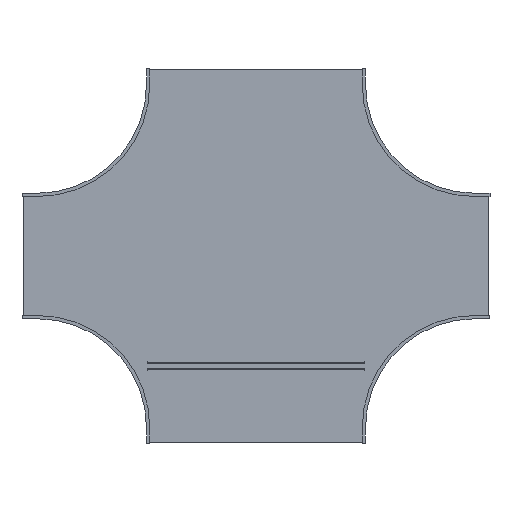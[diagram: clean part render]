
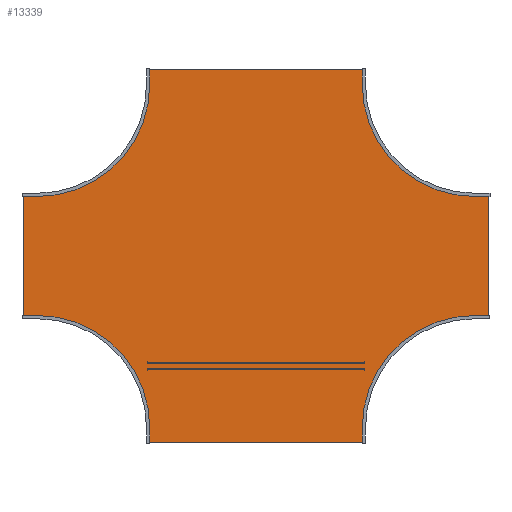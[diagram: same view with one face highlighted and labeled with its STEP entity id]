
A CAD part, front view. The second image highlights one B-rep face of the part: STEP entity #13339.
In plain terms, the highlighted planar face has unit normal (0, -1, 0).
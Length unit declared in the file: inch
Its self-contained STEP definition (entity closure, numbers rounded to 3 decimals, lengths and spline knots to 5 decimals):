
#13036=DIRECTION('',(0.,0.,1.));
#13037=VECTOR('',#13036,23.875);
#13038=CARTESIAN_POINT('',(-44.875,0.,-11.9375));
#13039=LINE('',#13038,#13037);
#13040=DIRECTION('',(1.,0.,0.));
#13041=VECTOR('',#13040,2.785);
#13042=CARTESIAN_POINT('',(-44.875,0.,11.9375));
#13043=LINE('',#13042,#13041);
#13044=CARTESIAN_POINT('',(-42.09,0.,33.09));
#13045=DIRECTION('',(0.,-1.,0.));
#13046=DIRECTION('',(0.,0.,-1.));
#13047=AXIS2_PLACEMENT_3D('',#13044,#13045,#13046);
#13049=DIRECTION('',(0.,0.,1.));
#13050=VECTOR('',#13049,2.785);
#13051=CARTESIAN_POINT('',(-20.9375,0.,33.09));
#13052=LINE('',#13051,#13050);
#13053=DIRECTION('',(1.,0.,0.));
#13054=VECTOR('',#13053,41.875);
#13055=CARTESIAN_POINT('',(-20.9375,0.,35.875));
#13056=LINE('',#13055,#13054);
#13057=DIRECTION('',(0.,0.,-1.));
#13058=VECTOR('',#13057,2.785);
#13059=CARTESIAN_POINT('',(20.9375,0.,35.875));
#13060=LINE('',#13059,#13058);
#13061=CARTESIAN_POINT('',(42.09,0.,33.09));
#13062=DIRECTION('',(0.,-1.,0.));
#13063=DIRECTION('',(-1.,0.,0.));
#13064=AXIS2_PLACEMENT_3D('',#13061,#13062,#13063);
#13066=DIRECTION('',(1.,0.,0.));
#13067=VECTOR('',#13066,2.785);
#13068=CARTESIAN_POINT('',(42.09,0.,11.9375));
#13069=LINE('',#13068,#13067);
#13070=DIRECTION('',(0.,0.,-1.));
#13071=VECTOR('',#13070,23.875);
#13072=CARTESIAN_POINT('',(44.875,0.,11.9375));
#13073=LINE('',#13072,#13071);
#13074=DIRECTION('',(-1.,0.,0.));
#13075=VECTOR('',#13074,2.785);
#13076=CARTESIAN_POINT('',(44.875,0.,-11.9375));
#13077=LINE('',#13076,#13075);
#13078=CARTESIAN_POINT('',(42.09,0.,-33.09));
#13079=DIRECTION('',(0.,-1.,0.));
#13080=DIRECTION('',(0.,0.,1.));
#13081=AXIS2_PLACEMENT_3D('',#13078,#13079,#13080);
#13083=DIRECTION('',(0.,0.,-1.));
#13084=VECTOR('',#13083,2.785);
#13085=CARTESIAN_POINT('',(20.9375,0.,-33.09));
#13086=LINE('',#13085,#13084);
#13087=DIRECTION('',(-1.,0.,0.));
#13088=VECTOR('',#13087,41.875);
#13089=CARTESIAN_POINT('',(20.9375,0.,-35.875));
#13090=LINE('',#13089,#13088);
#13091=DIRECTION('',(0.,0.,1.));
#13092=VECTOR('',#13091,2.785);
#13093=CARTESIAN_POINT('',(-20.9375,0.,-35.875));
#13094=LINE('',#13093,#13092);
#13095=CARTESIAN_POINT('',(-42.09,0.,-33.09));
#13096=DIRECTION('',(0.,-1.,0.));
#13097=DIRECTION('',(1.,0.,0.));
#13098=AXIS2_PLACEMENT_3D('',#13095,#13096,#13097);
#13100=DIRECTION('',(-1.,0.,0.));
#13101=VECTOR('',#13100,2.785);
#13102=CARTESIAN_POINT('',(-42.09,0.,-11.9375));
#13103=LINE('',#13102,#13101);
#13236=CARTESIAN_POINT('',(-44.875,0.,-11.9375));
#13237=CARTESIAN_POINT('',(-44.875,0.,11.9375));
#13238=VERTEX_POINT('',#13236);
#13239=VERTEX_POINT('',#13237);
#13240=CARTESIAN_POINT('',(-42.09,0.,11.9375));
#13241=VERTEX_POINT('',#13240);
#13242=CARTESIAN_POINT('',(-20.9375,0.,33.09));
#13243=VERTEX_POINT('',#13242);
#13244=CARTESIAN_POINT('',(-20.9375,0.,35.875));
#13245=VERTEX_POINT('',#13244);
#13246=CARTESIAN_POINT('',(20.9375,0.,35.875));
#13247=VERTEX_POINT('',#13246);
#13248=CARTESIAN_POINT('',(20.9375,0.,33.09));
#13249=VERTEX_POINT('',#13248);
#13250=CARTESIAN_POINT('',(42.09,0.,11.9375));
#13251=VERTEX_POINT('',#13250);
#13252=CARTESIAN_POINT('',(44.875,0.,11.9375));
#13253=VERTEX_POINT('',#13252);
#13254=CARTESIAN_POINT('',(44.875,0.,-11.9375));
#13255=VERTEX_POINT('',#13254);
#13256=CARTESIAN_POINT('',(42.09,0.,-11.9375));
#13257=VERTEX_POINT('',#13256);
#13258=CARTESIAN_POINT('',(20.9375,0.,-33.09));
#13259=VERTEX_POINT('',#13258);
#13260=CARTESIAN_POINT('',(20.9375,0.,-35.875));
#13261=VERTEX_POINT('',#13260);
#13262=CARTESIAN_POINT('',(-20.9375,0.,-35.875));
#13263=VERTEX_POINT('',#13262);
#13264=CARTESIAN_POINT('',(-20.9375,0.,-33.09));
#13265=VERTEX_POINT('',#13264);
#13266=CARTESIAN_POINT('',(-42.09,0.,-11.9375));
#13267=VERTEX_POINT('',#13266);
#13300=CARTESIAN_POINT('',(0.,0.,0.));
#13301=DIRECTION('',(0.,1.,0.));
#13302=DIRECTION('',(1.,0.,0.));
#13303=AXIS2_PLACEMENT_3D('',#13300,#13301,#13302);
#13304=PLANE('',#13303);
#13306=ORIENTED_EDGE('',*,*,#13305,.T.);
#13308=ORIENTED_EDGE('',*,*,#13307,.T.);
#13310=ORIENTED_EDGE('',*,*,#13309,.T.);
#13312=ORIENTED_EDGE('',*,*,#13311,.T.);
#13314=ORIENTED_EDGE('',*,*,#13313,.T.);
#13316=ORIENTED_EDGE('',*,*,#13315,.T.);
#13318=ORIENTED_EDGE('',*,*,#13317,.T.);
#13320=ORIENTED_EDGE('',*,*,#13319,.T.);
#13322=ORIENTED_EDGE('',*,*,#13321,.T.);
#13324=ORIENTED_EDGE('',*,*,#13323,.T.);
#13326=ORIENTED_EDGE('',*,*,#13325,.T.);
#13328=ORIENTED_EDGE('',*,*,#13327,.T.);
#13330=ORIENTED_EDGE('',*,*,#13329,.T.);
#13332=ORIENTED_EDGE('',*,*,#13331,.T.);
#13334=ORIENTED_EDGE('',*,*,#13333,.T.);
#13336=ORIENTED_EDGE('',*,*,#13335,.T.);
#13337=EDGE_LOOP('',(#13306,#13308,#13310,#13312,#13314,#13316,#13318,#13320,
#13322,#13324,#13326,#13328,#13330,#13332,#13334,#13336));
#13338=FACE_OUTER_BOUND('',#13337,.F.);
#13339=ADVANCED_FACE('',(#13338),#13304,.F.);
#13048=CIRCLE('',#13047,21.1525);
#13065=CIRCLE('',#13064,21.1525);
#13082=CIRCLE('',#13081,21.1525);
#13099=CIRCLE('',#13098,21.1525);
#13305=EDGE_CURVE('',#13238,#13239,#13039,.T.);
#13307=EDGE_CURVE('',#13239,#13241,#13043,.T.);
#13309=EDGE_CURVE('',#13241,#13243,#13048,.T.);
#13311=EDGE_CURVE('',#13243,#13245,#13052,.T.);
#13313=EDGE_CURVE('',#13245,#13247,#13056,.T.);
#13315=EDGE_CURVE('',#13247,#13249,#13060,.T.);
#13317=EDGE_CURVE('',#13249,#13251,#13065,.T.);
#13319=EDGE_CURVE('',#13251,#13253,#13069,.T.);
#13321=EDGE_CURVE('',#13253,#13255,#13073,.T.);
#13323=EDGE_CURVE('',#13255,#13257,#13077,.T.);
#13325=EDGE_CURVE('',#13257,#13259,#13082,.T.);
#13327=EDGE_CURVE('',#13259,#13261,#13086,.T.);
#13329=EDGE_CURVE('',#13261,#13263,#13090,.T.);
#13331=EDGE_CURVE('',#13263,#13265,#13094,.T.);
#13333=EDGE_CURVE('',#13265,#13267,#13099,.T.);
#13335=EDGE_CURVE('',#13267,#13238,#13103,.T.);
